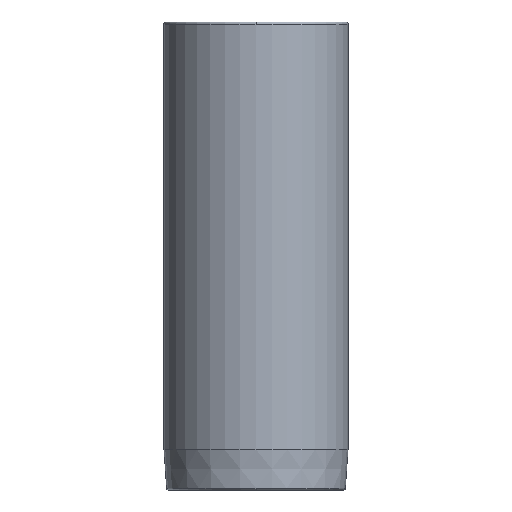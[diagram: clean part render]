
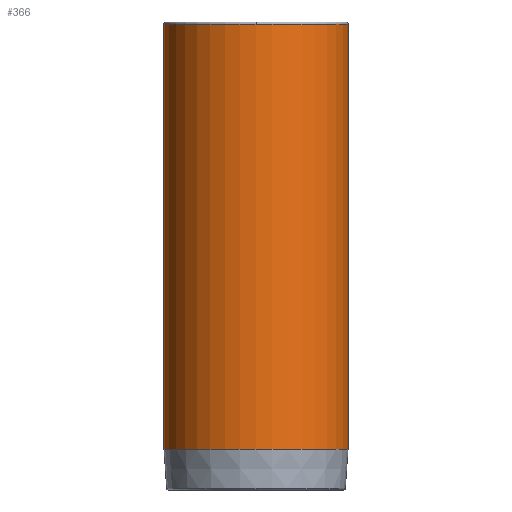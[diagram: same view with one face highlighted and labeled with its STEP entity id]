
A CAD part, front view. The second image highlights one B-rep face of the part: STEP entity #366.
In plain terms, the highlighted cylindrical face has radius 22.625 mm (diameter 45.25 mm), a partial arc.
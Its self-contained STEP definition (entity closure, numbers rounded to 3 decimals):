
#271=CARTESIAN_POINT('',(0.0,-22.625,53.5));
#272=VERTEX_POINT('',#271);
#298=CARTESIAN_POINT('',(-22.625,0.,53.5));
#299=VERTEX_POINT('',#298);
#307=CARTESIAN_POINT('',(0.0,0.,53.5));
#308=DIRECTION('',(0.0,0.0,1.0));
#309=DIRECTION('',(1.0,0.0,0.0));
#310=AXIS2_PLACEMENT_3D('',#307,#308,#309);
#311=CIRCLE('',#310,22.625);
#312=EDGE_CURVE('',#299,#272,#311,.T.);
#317=CARTESIAN_POINT('',(0.0,0.,1.267));
#318=DIRECTION('',(0.0,0.,1.0));
#319=DIRECTION('',(1.0,0.0,0.0));
#320=AXIS2_PLACEMENT_3D('',#317,#318,#319);
#321=CYLINDRICAL_SURFACE('',#320,22.625);
#322=CARTESIAN_POINT('',(22.625,0.,53.5));
#323=VERTEX_POINT('',#322);
#324=CARTESIAN_POINT('',(22.625,0.,-50.965));
#325=VERTEX_POINT('',#324);
#326=CARTESIAN_POINT('',(22.625,0.,53.5));
#327=DIRECTION('',(0.0,0.0,-1.0));
#328=VECTOR('',#327,104.465);
#329=LINE('',#326,#328);
#330=EDGE_CURVE('',#323,#325,#329,.T.);
#331=ORIENTED_EDGE('',*,*,#330,.F.);
#332=CARTESIAN_POINT('',(0.0,0.,53.5));
#333=DIRECTION('',(0.0,0.0,1.0));
#334=DIRECTION('',(1.0,0.0,0.0));
#335=AXIS2_PLACEMENT_3D('',#332,#333,#334);
#336=CIRCLE('',#335,22.625);
#337=EDGE_CURVE('',#272,#323,#336,.T.);
#338=ORIENTED_EDGE('',*,*,#337,.F.);
#339=ORIENTED_EDGE('',*,*,#312,.F.);
#340=CARTESIAN_POINT('',(-22.625,0.,-50.965));
#341=VERTEX_POINT('',#340);
#342=CARTESIAN_POINT('',(-22.625,0.,53.5));
#343=DIRECTION('',(0.0,0.0,-1.0));
#344=VECTOR('',#343,104.465);
#345=LINE('',#342,#344);
#346=EDGE_CURVE('',#299,#341,#345,.T.);
#347=ORIENTED_EDGE('',*,*,#346,.T.);
#348=CARTESIAN_POINT('',(0.0,-22.625,-50.965));
#349=VERTEX_POINT('',#348);
#350=CARTESIAN_POINT('',(0.0,0.,-50.965));
#351=DIRECTION('',(0.0,0.0,1.0));
#352=DIRECTION('',(1.0,0.0,0.0));
#353=AXIS2_PLACEMENT_3D('',#350,#351,#352);
#354=CIRCLE('',#353,22.625);
#355=EDGE_CURVE('',#341,#349,#354,.T.);
#356=ORIENTED_EDGE('',*,*,#355,.T.);
#357=CARTESIAN_POINT('',(0.0,0.,-50.965));
#358=DIRECTION('',(0.0,0.0,1.0));
#359=DIRECTION('',(1.0,0.0,0.0));
#360=AXIS2_PLACEMENT_3D('',#357,#358,#359);
#361=CIRCLE('',#360,22.625);
#362=EDGE_CURVE('',#349,#325,#361,.T.);
#363=ORIENTED_EDGE('',*,*,#362,.T.);
#364=EDGE_LOOP('',(#331,#338,#339,#347,#356,#363));
#365=FACE_OUTER_BOUND('',#364,.T.);
#366=ADVANCED_FACE('',(#365),#321,.T.);
